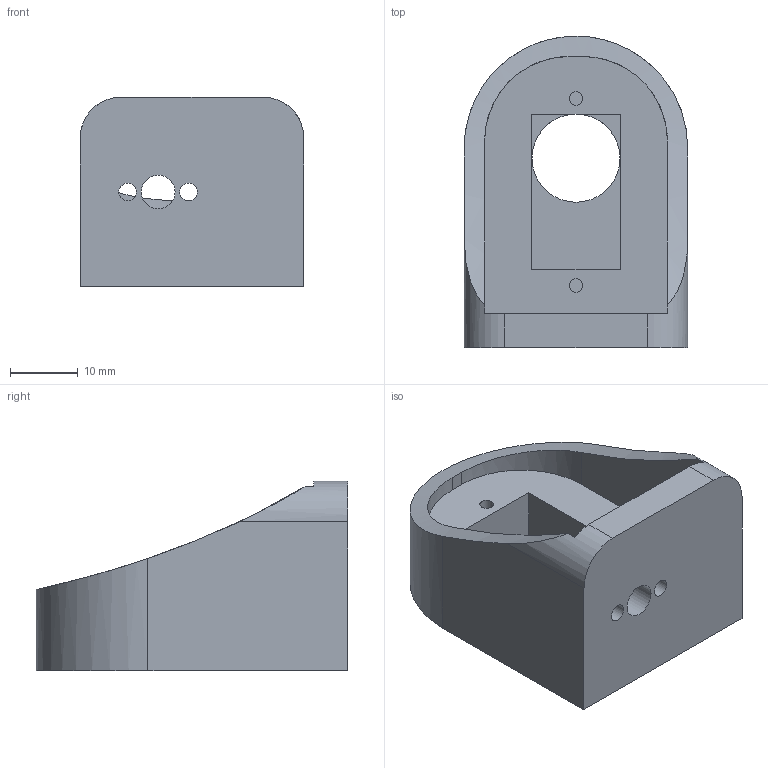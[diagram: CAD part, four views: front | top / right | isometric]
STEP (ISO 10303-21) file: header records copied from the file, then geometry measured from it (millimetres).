
FILE_DESCRIPTION(/* description */ (''),/* implementation_level */ '2;1');
FILE_NAME(/* name */ 'Arm 03.step',/* time_stamp */ '2024-01-03T12:00:14+05:30',/* author */ (''),/* organization */ (''),/* preprocessor_version */ 'ST-DEVELOPER v20',/* originating_system */ 'Autodesk Translation Framework v12.14.0.127',/* authorisation */ '');
FILE_SCHEMA (('AUTOMOTIVE_DESIGN { 1 0 10303 214 3 1 1 }'));
Length unit declared in the file: millimetre
Products named in the file (1): Arm 03
Bounding box: 33 x 46 x 28 mm (x, y, z)
Volume: 16470.3 mm3; surface area: 7543.4 mm2
Topology: 1 solids, 1 shells, 31 faces, 77 edges, 50 vertices
Faces by surface type: plane 19, cylinder 11, bspline 1
Full cylindrical faces by diameter (mm): 2 x2, 2.6 x2, 5 x1, 13 x1
Entity records: 1028 total; most frequent: CARTESIAN_POINT 239, ORIENTED_EDGE 154, DIRECTION 151, EDGE_CURVE 77, AXIS2_PLACEMENT_3D 52, VERTEX_POINT 50, LINE 47, VECTOR 47
